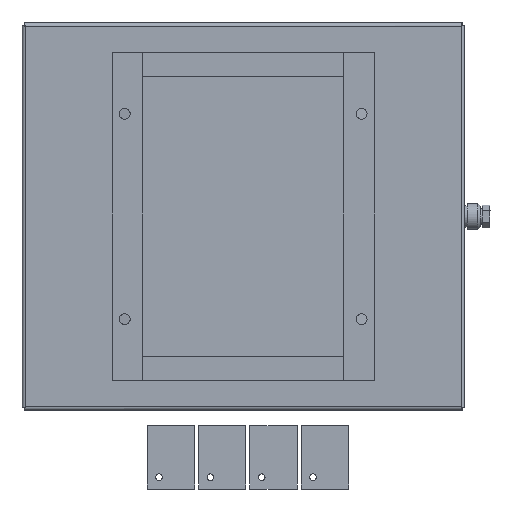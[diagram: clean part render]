
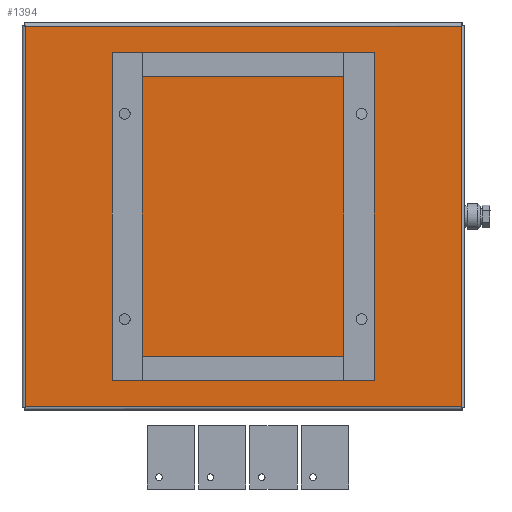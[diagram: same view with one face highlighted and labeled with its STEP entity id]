
A CAD part, front view. The second image highlights one B-rep face of the part: STEP entity #1394.
In plain terms, the highlighted planar face has unit normal (0, -1, 0).
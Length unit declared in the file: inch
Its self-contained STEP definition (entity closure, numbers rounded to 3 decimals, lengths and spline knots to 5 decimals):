
#7 = CARTESIAN_POINT ( 'NONE',  ( 0.197, -0.1345, -0.197 ) ) ;
#51 = VERTEX_POINT ( 'NONE', #7 ) ;
#68 = LINE ( 'NONE', #1355, #2426 ) ;
#415 = DIRECTION ( 'NONE',  ( 0., 0., -1. ) ) ;
#473 = EDGE_CURVE ( 'NONE', #997, #51, #68, .T. ) ;
#538 = AXIS2_PLACEMENT_3D ( 'NONE', #3778, #2862, #1006 ) ;
#691 = PLANE ( 'NONE',  #538 ) ;
#785 = VECTOR ( 'NONE', #3754, 39.37008 ) ;
#832 = VECTOR ( 'NONE', #1688, 39.37008 ) ;
#997 = VERTEX_POINT ( 'NONE', #2010 ) ;
#1006 = DIRECTION ( 'NONE',  ( 0., 0., -1. ) ) ;
#1145 = VECTOR ( 'NONE', #415, 39.37008 ) ;
#1256 = VERTEX_POINT ( 'NONE', #2821 ) ;
#1286 = CARTESIAN_POINT ( 'NONE',  ( 27.803, -0.1345, -24.36543 ) ) ;
#1312 = EDGE_CURVE ( 'NONE', #2624, #997, #1626, .T. ) ;
#1355 = CARTESIAN_POINT ( 'NONE',  ( 27.86543, -0.1345, -0.197 ) ) ;
#1380 = ORIENTED_EDGE ( 'NONE', *, *, #1519, .T. ) ;
#1394 = ADVANCED_FACE ( 'NONE', ( #3176 ), #691, .T. ) ;
#1477 = ORIENTED_EDGE ( 'NONE', *, *, #1312, .T. ) ;
#1519 = EDGE_CURVE ( 'NONE', #1256, #2624, #2177, .T. ) ;
#1626 = LINE ( 'NONE', #1286, #785 ) ;
#1688 = DIRECTION ( 'NONE',  ( 1., 0., 0. ) ) ;
#1861 = CARTESIAN_POINT ( 'NONE',  ( 27.803, -0.1345, -24.303 ) ) ;
#2010 = CARTESIAN_POINT ( 'NONE',  ( 27.803, -0.1345, -0.197 ) ) ;
#2177 = LINE ( 'NONE', #2933, #832 ) ;
#2426 = VECTOR ( 'NONE', #2575, 39.37008 ) ;
#2564 = CARTESIAN_POINT ( 'NONE',  ( 0.197, -0.1345, -0.13457 ) ) ;
#2575 = DIRECTION ( 'NONE',  ( -1., 0., 0. ) ) ;
#2587 = ORIENTED_EDGE ( 'NONE', *, *, #3865, .T. ) ;
#2624 = VERTEX_POINT ( 'NONE', #1861 ) ;
#2686 = LINE ( 'NONE', #2564, #1145 ) ;
#2821 = CARTESIAN_POINT ( 'NONE',  ( 0.197, -0.1345, -24.303 ) ) ;
#2862 = DIRECTION ( 'NONE',  ( 0., -1., 0. ) ) ;
#2933 = CARTESIAN_POINT ( 'NONE',  ( 0.13457, -0.1345, -24.303 ) ) ;
#3072 = EDGE_LOOP ( 'NONE', ( #1380, #1477, #3562, #2587 ) ) ;
#3176 = FACE_OUTER_BOUND ( 'NONE', #3072, .T. ) ;
#3562 = ORIENTED_EDGE ( 'NONE', *, *, #473, .T. ) ;
#3754 = DIRECTION ( 'NONE',  ( 0., 0., 1. ) ) ;
#3778 = CARTESIAN_POINT ( 'NONE',  ( 0., -0.1345, 0. ) ) ;
#3865 = EDGE_CURVE ( 'NONE', #51, #1256, #2686, .T. ) ;
